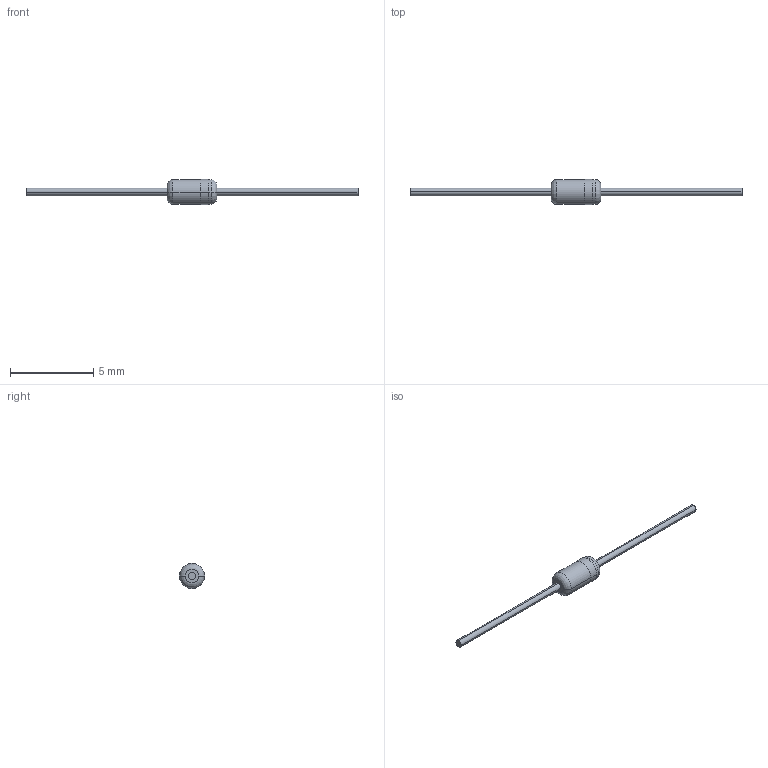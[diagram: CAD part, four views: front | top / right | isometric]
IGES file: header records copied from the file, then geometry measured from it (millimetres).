
Start section:  PTC IGES file: do35_d1-5_l3.igs
Global section: file name: do35_d1-5_l3.igs; native system: Pro/ENGINEER by Parametric Technology Corporation; preprocessor: 2004440; author: Dragos; organization: Unknown; date: 190211.200216; units: millimetre
Bounding box: 20 x 1.52 x 1.52 mm (x, y, z)
Volume: 7.8 mm3; surface area: 40.3 mm2
Topology: 1 solids, 1 shells, 20 faces, 40 edges, 28 vertices
Faces by surface type: revolution 14, bspline 6
